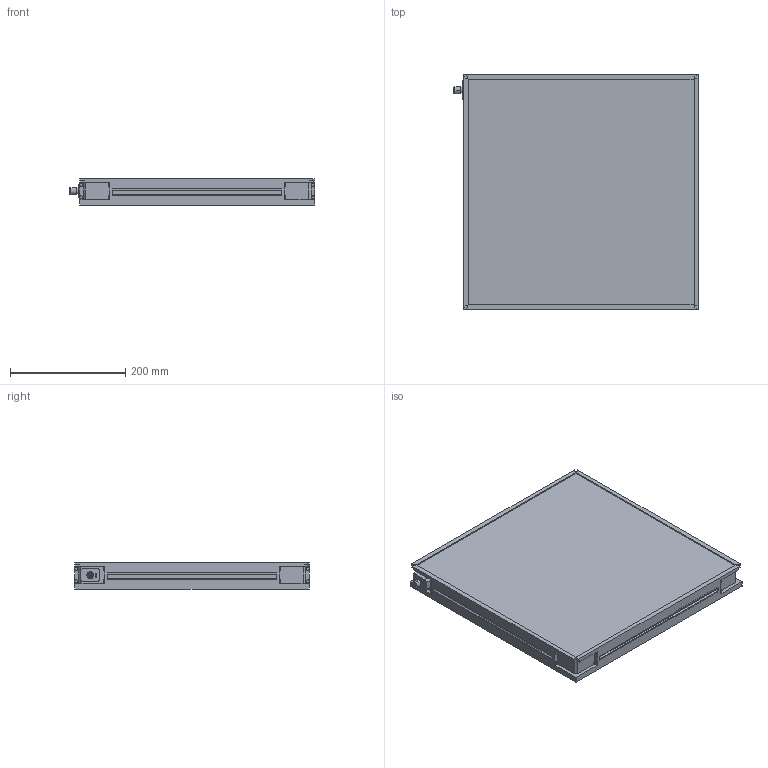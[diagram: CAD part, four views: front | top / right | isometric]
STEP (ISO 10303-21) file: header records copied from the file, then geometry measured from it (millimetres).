
FILE_DESCRIPTION (( 'STEP AP214' ), '1' );
FILE_NAME ('MBACK-xxxx-xxx-M1_CLIENT400x400.STEP', '2022-03-31T16:10:14', ( '' ), ( '' ), 'SwSTEP 2.0', 'SolidWorks 2020', '' );
FILE_SCHEMA (( 'AUTOMOTIVE_DESIGN' ));
Length unit declared in the file: millimetre
Products named in the file (1): MBACK-xxxx-xxx-M1_CLIENT400x400
Bounding box: 425.9 x 408 x 45.5 mm (x, y, z)
Volume: 6877147.4 mm3; surface area: 441091.1 mm2
Topology: 1 solids, 1 shells, 442 faces, 1144 edges, 760 vertices
Faces by surface type: plane 249, cylinder 105, bspline 80, cone 8
Entity records: 17236 total; most frequent: CARTESIAN_POINT 6699, ORIENTED_EDGE 2288, DIRECTION 1936, EDGE_CURVE 1144, VERTEX_POINT 760, LINE 758, VECTOR 758, AXIS2_PLACEMENT_3D 589
